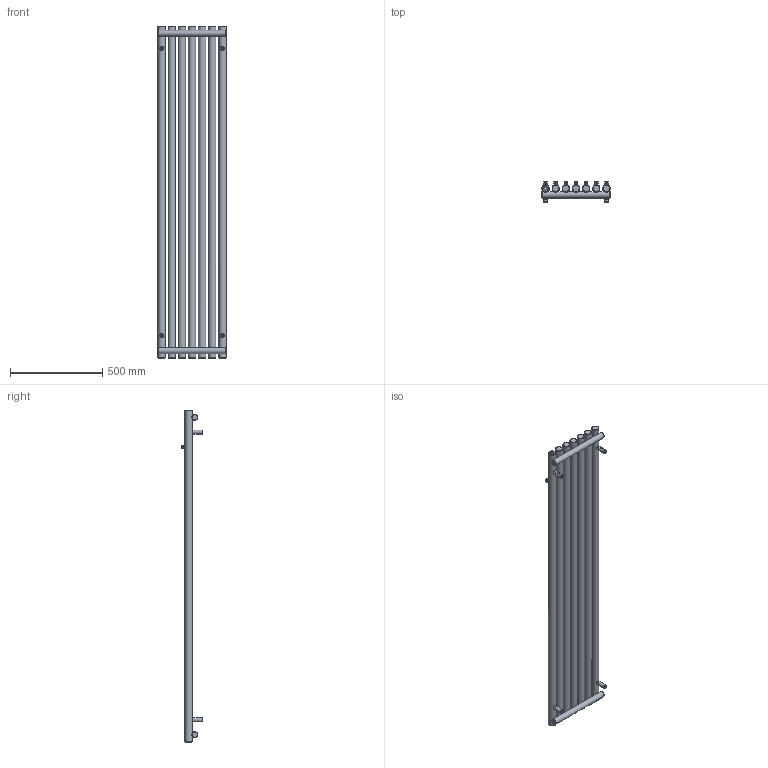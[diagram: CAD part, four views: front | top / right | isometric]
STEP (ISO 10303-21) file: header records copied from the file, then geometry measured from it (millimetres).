
FILE_DESCRIPTION(/* description */ (''),/* implementation_level */ '2;1');
FILE_NAME(/* name */ 'Z:\R\G\P\RGP116 - Grzejniki Geyser\Work\Inventor\Circolo (Rolo V, Rolo H)\ROLO-HANGER\Marketing\Bryły\Zaokrąglone\WGROW180037-SX-CK-(Z).stp',/* time_stamp */ '2024-03-26T15:38:33+01:00',/* author */ ('NowAd'),/* organization */ (''),/* preprocessor_version */ 'ST-DEVELOPER v17.2',/* originating_system */ 'Autodesk Inventor 2019',/* authorisation */ '');
FILE_SCHEMA (('AUTOMOTIVE_DESIGN { 1 0 10303 214 3 1 1 }'));
Length unit declared in the file: millimetre
Products named in the file (3): WGROR180037-SX-CK-(Z); PGROR180037-SX-CK-(K); CK-V-fi40 marketing
Assembly tree (5 placements, depth 2):
  WGROR180037-SX-CK-(Z)
    PGROR180037-SX-CK-(K)
    CK-V-fi40 marketing  x4
Bounding box: 370 x 116.5 x 1800 mm (x, y, z)
Volume: 16500603.2 mm3; surface area: 1711468.8 mm2
Topology: 5 solids, 5 shells, 417 faces, 1058 edges, 719 vertices
Faces by surface type: plane 158, cylinder 97, torus 81, cone 60, bspline 21
Full cylindrical faces by diameter (mm): 4.134 x4, 4.48 x4, 6.4 x4, 10 x4, 12 x4, 14 x7, 15.834 x4, 16 x4, 18.631 x3, 20 x14, 22 x4, 32 x2, 40 x7
Entity records: 11520 total; most frequent: CARTESIAN_POINT 5621, DIRECTION 1297, ORIENTED_EDGE 1168, AXIS2_PLACEMENT_3D 596, EDGE_CURVE 584, VERTEX_POINT 408, CIRCLE 367, EDGE_LOOP 302
